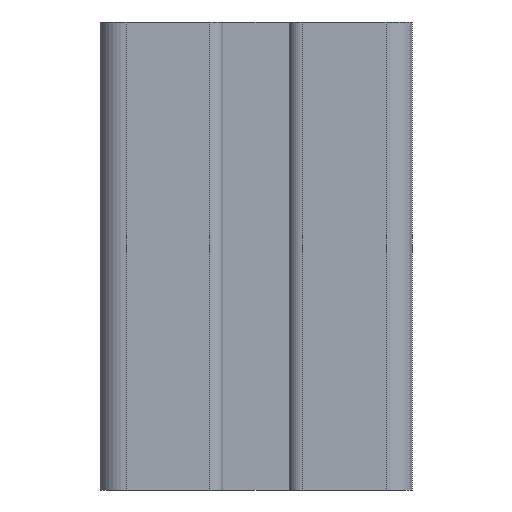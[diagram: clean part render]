
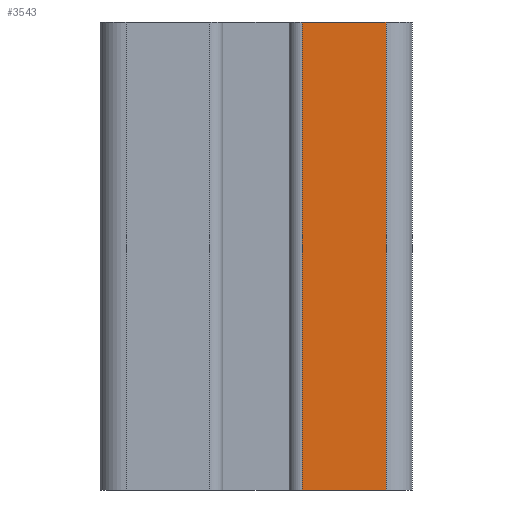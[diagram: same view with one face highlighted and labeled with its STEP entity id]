
A CAD part, left-side view. The second image highlights one B-rep face of the part: STEP entity #3543.
In plain terms, the highlighted planar face has unit normal (-1, 0, 0).
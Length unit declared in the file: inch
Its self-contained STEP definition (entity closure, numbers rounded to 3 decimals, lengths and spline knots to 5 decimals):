
#20=PLANE('',#3744);
#115=LINE('',#5230,#483);
#116=LINE('',#5232,#484);
#117=LINE('',#5234,#485);
#118=LINE('',#5236,#486);
#483=VECTOR('',#4120,39.37008);
#484=VECTOR('',#4123,39.37008);
#485=VECTOR('',#4124,39.37008);
#486=VECTOR('',#4125,39.37008);
#854=ORIENTED_EDGE('',*,*,#1958,.F.);
#855=ORIENTED_EDGE('',*,*,#1957,.F.);
#856=ORIENTED_EDGE('',*,*,#1959,.T.);
#857=ORIENTED_EDGE('',*,*,#1960,.T.);
#1957=EDGE_CURVE('',#2509,#2507,#115,.T.);
#1958=EDGE_CURVE('',#2507,#2510,#116,.T.);
#1959=EDGE_CURVE('',#2509,#2511,#117,.T.);
#1960=EDGE_CURVE('',#2511,#2510,#118,.T.);
#2507=VERTEX_POINT('',#5225);
#2509=VERTEX_POINT('',#5229);
#2510=VERTEX_POINT('',#5233);
#2511=VERTEX_POINT('',#5235);
#3059=EDGE_LOOP('',(#854,#855,#856,#857));
#3255=FACE_BOUND('',#3059,.T.);
#3543=ADVANCED_FACE('',(#3255),#20,.T.);
#3744=AXIS2_PLACEMENT_3D('',#5231,#4121,#4122);
#4120=DIRECTION('',(0.,0.,1.));
#4121=DIRECTION('',(-1.,0.,0.));
#4122=DIRECTION('',(0.,0.,1.));
#4123=DIRECTION('',(0.,-1.,0.));
#4124=DIRECTION('',(0.,-1.,0.));
#4125=DIRECTION('',(0.,0.,1.));
#5225=CARTESIAN_POINT('',(-0.75,-0.222,0.));
#5229=CARTESIAN_POINT('',(-0.75,-0.222,-2.25));
#5230=CARTESIAN_POINT('',(-0.75,-0.222,-2.25));
#5231=CARTESIAN_POINT('',(-0.75,-0.222,-2.25));
#5232=CARTESIAN_POINT('',(-0.75,-0.222,0.));
#5233=CARTESIAN_POINT('',(-0.75,-0.625,0.));
#5234=CARTESIAN_POINT('',(-0.75,-0.222,-2.25));
#5235=CARTESIAN_POINT('',(-0.75,-0.625,-2.25));
#5236=CARTESIAN_POINT('',(-0.75,-0.625,-2.25));
